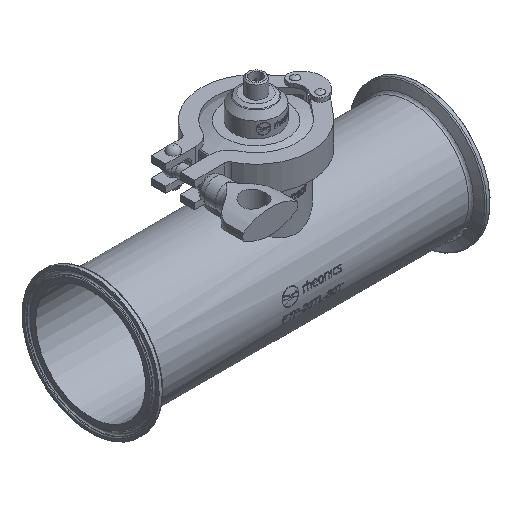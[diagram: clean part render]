
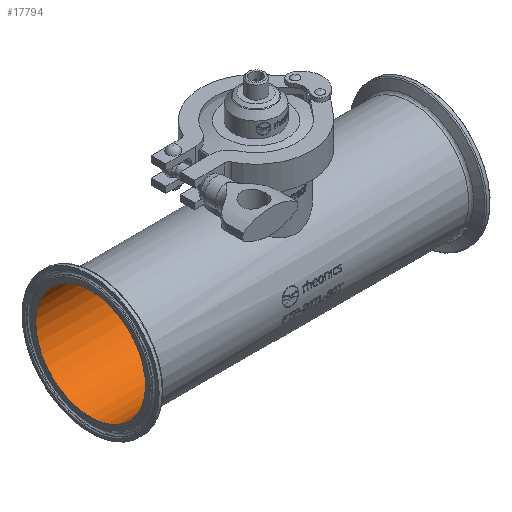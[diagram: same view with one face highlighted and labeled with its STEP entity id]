
A CAD part, isometric view. The second image highlights one B-rep face of the part: STEP entity #17794.
In plain terms, the highlighted cylindrical face has radius 36.45 mm (diameter 72.9 mm), a full revolution.
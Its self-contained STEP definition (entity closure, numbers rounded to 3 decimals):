
#2232=CIRCLE('',#18631,36.45);
#2233=CIRCLE('',#18632,36.45);
#2664=ORIENTED_EDGE('',*,*,#6490,.T.);
#2665=ORIENTED_EDGE('',*,*,#6491,.T.);
#2666=ORIENTED_EDGE('',*,*,#6492,.T.);
#6490=EDGE_CURVE('',#8403,#8403,#9715,.T.);
#6491=EDGE_CURVE('',#8404,#8404,#2232,.F.);
#6492=EDGE_CURVE('',#8405,#8405,#2233,.F.);
#8403=VERTEX_POINT('',#22245);
#8404=VERTEX_POINT('',#22247);
#8405=VERTEX_POINT('',#22249);
#9715=B_SPLINE_CURVE_WITH_KNOTS('',3,(#22198,#22199,#22200,#22201,#22202,
#22203,#22204,#22205,#22206,#22207,#22208,#22209,#22210,#22211,#22212,#22213,
#22214,#22215,#22216,#22217,#22218,#22219,#22220,#22221,#22222,#22223,#22224,
#22225,#22226,#22227,#22228,#22229,#22230,#22231,#22232,#22233,#22234,#22235,
#22236,#22237,#22238,#22239,#22240,#22241,#22242,#22243,#22244),
 .UNSPECIFIED.,.T.,.F.,(1,1,1,1,1,1,1,1,1,1,1,1,1,1,1,1,1,1,1,1,1,1,1,1,
1,1,1,1,1,1,1,1,1,1,1,1,1,1,1,1,1,1,1,1,1,1,1,1,1,1,1),(-0.01,
-0.005,-0.003,0.,0.003,
0.005,0.01,0.013,0.015,
0.02,0.025,0.03,0.035,
0.038,0.04,0.043,0.046,
0.051,0.056,0.061,0.063,
0.066,0.068,0.071,0.076,
0.081,0.084,0.086,0.091,
0.094,0.096,0.101,0.106,
0.111,0.114,0.116,0.121,
0.124,0.127,0.132,0.137,
0.142,0.144,0.147,0.152,
0.157,0.159,0.162,0.164,
0.167,0.172),.UNSPECIFIED.);
#10430=EDGE_LOOP('',(#2664));
#10431=EDGE_LOOP('',(#2665));
#10432=EDGE_LOOP('',(#2666));
#11471=FACE_BOUND('',#10430,.T.);
#11472=FACE_BOUND('',#10431,.T.);
#11473=FACE_BOUND('',#10432,.T.);
#12512=CYLINDRICAL_SURFACE('',#18630,36.45);
#17794=ADVANCED_FACE('',(#11471,#11472,#11473),#12512,.F.);
#18630=AXIS2_PLACEMENT_3D('',#22197,#19566,#19567);
#18631=AXIS2_PLACEMENT_3D('',#22246,#19568,#19569);
#18632=AXIS2_PLACEMENT_3D('',#22248,#19570,#19571);
#19566=DIRECTION('',(-1.,0.,0.));
#19567=DIRECTION('',(0.,0.,-1.));
#19568=DIRECTION('',(1.,0.,0.));
#19569=DIRECTION('',(0.,0.924,0.382));
#19570=DIRECTION('',(-1.,0.,0.));
#19571=DIRECTION('',(0.,0.102,0.995));
#22197=CARTESIAN_POINT('',(80.,0.,0.));
#22198=CARTESIAN_POINT('',(24.911,-2.564,36.389));
#22199=CARTESIAN_POINT('',(25.044,0.002,36.48));
#22200=CARTESIAN_POINT('',(24.912,2.555,36.389));
#22201=CARTESIAN_POINT('',(24.404,5.866,36.042));
#22202=CARTESIAN_POINT('',(23.389,9.092,35.358));
#22203=CARTESIAN_POINT('',(21.97,12.013,34.438));
#22204=CARTESIAN_POINT('',(20.271,14.786,33.372));
#22205=CARTESIAN_POINT('',(17.736,17.831,31.868));
#22206=CARTESIAN_POINT('',(14.045,20.861,29.949));
#22207=CARTESIAN_POINT('',(9.888,23.131,28.205));
#22208=CARTESIAN_POINT('',(5.918,24.39,27.093));
#22209=CARTESIAN_POINT('',(2.607,24.907,26.613));
#22210=CARTESIAN_POINT('',(0.029,25.044,26.484));
#22211=CARTESIAN_POINT('',(-2.493,24.918,26.603));
#22212=CARTESIAN_POINT('',(-5.843,24.41,27.075));
#22213=CARTESIAN_POINT('',(-9.792,23.175,28.17));
#22214=CARTESIAN_POINT('',(-14.025,20.875,29.939));
#22215=CARTESIAN_POINT('',(-17.065,18.39,31.517));
#22216=CARTESIAN_POINT('',(-19.225,16.041,32.752));
#22217=CARTESIAN_POINT('',(-20.659,14.145,33.616));
#22218=CARTESIAN_POINT('',(-21.92,12.103,34.407));
#22219=CARTESIAN_POINT('',(-23.37,9.143,35.346));
#22220=CARTESIAN_POINT('',(-24.633,5.179,36.197));
#22221=CARTESIAN_POINT('',(-25.084,0.898,36.508));
#22222=CARTESIAN_POINT('',(-24.921,-2.468,36.396));
#22223=CARTESIAN_POINT('',(-24.409,-5.853,36.046));
#22224=CARTESIAN_POINT('',(-23.416,-9.025,35.376));
#22225=CARTESIAN_POINT('',(-21.975,-12.003,34.442));
#22226=CARTESIAN_POINT('',(-20.297,-14.75,33.387));
#22227=CARTESIAN_POINT('',(-17.725,-17.841,31.863));
#22228=CARTESIAN_POINT('',(-14.088,-20.835,29.967));
#22229=CARTESIAN_POINT('',(-10.541,-22.77,28.482));
#22230=CARTESIAN_POINT('',(-7.499,-23.891,27.534));
#22231=CARTESIAN_POINT('',(-4.254,-24.736,26.779));
#22232=CARTESIAN_POINT('',(-0.884,-25.088,26.442));
#22233=CARTESIAN_POINT('',(2.554,-24.913,26.608));
#22234=CARTESIAN_POINT('',(5.87,-24.402,27.082));
#22235=CARTESIAN_POINT('',(9.843,-23.153,28.188));
#22236=CARTESIAN_POINT('',(14.045,-20.862,29.948));
#22237=CARTESIAN_POINT('',(17.112,-18.345,31.543));
#22238=CARTESIAN_POINT('',(19.249,-16.012,32.766));
#22239=CARTESIAN_POINT('',(21.191,-13.433,33.937));
#22240=CARTESIAN_POINT('',(23.121,-9.927,35.178));
#22241=CARTESIAN_POINT('',(24.399,-5.89,36.039));
#22242=CARTESIAN_POINT('',(24.911,-2.564,36.389));
#22243=CARTESIAN_POINT('',(25.044,0.002,36.48));
#22244=CARTESIAN_POINT('',(24.912,2.555,36.389));
#22245=CARTESIAN_POINT('',(25.,0.,36.45));
#22246=CARTESIAN_POINT('',(-109.85,0.,0.));
#22247=CARTESIAN_POINT('',(-109.85,33.688,13.918));
#22248=CARTESIAN_POINT('',(109.85,0.,0.));
#22249=CARTESIAN_POINT('',(109.85,3.729,36.259));
